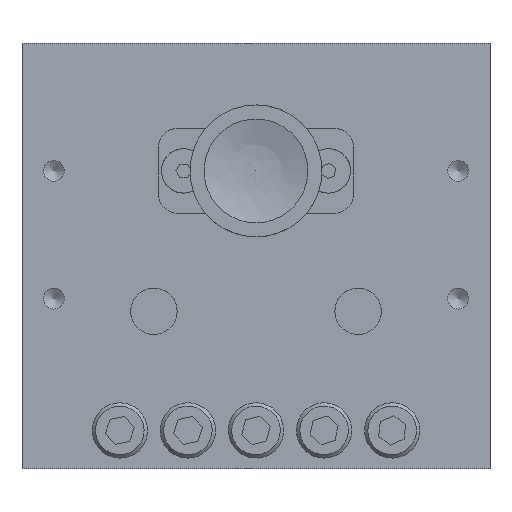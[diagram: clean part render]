
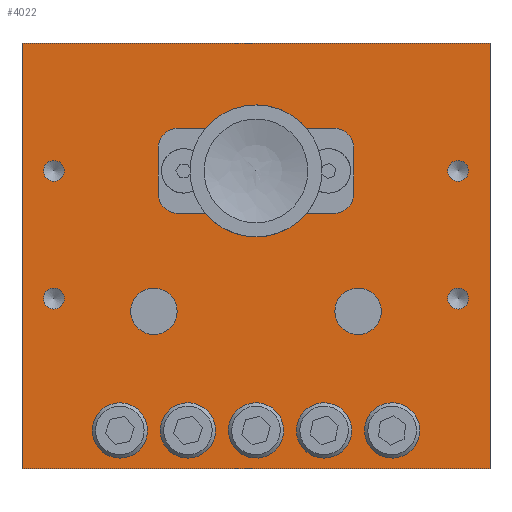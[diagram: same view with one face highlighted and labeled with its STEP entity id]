
A CAD part, front view. The second image highlights one B-rep face of the part: STEP entity #4022.
In plain terms, the highlighted planar face has unit normal (0, -1, 0).
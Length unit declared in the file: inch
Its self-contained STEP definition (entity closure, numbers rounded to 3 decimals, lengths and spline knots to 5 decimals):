
#117=LINE('',#6119,#385);
#124=LINE('',#6208,#392);
#127=LINE('',#6213,#395);
#129=LINE('',#6216,#397);
#385=VECTOR('',#4969,0.3937);
#392=VECTOR('',#5078,0.3937);
#395=VECTOR('',#5083,0.3937);
#397=VECTOR('',#5087,0.3937);
#777=FACE_BOUND('',#1323,.T.);
#778=FACE_BOUND('',#1324,.T.);
#779=FACE_BOUND('',#1325,.T.);
#780=FACE_BOUND('',#1326,.T.);
#781=FACE_BOUND('',#1327,.T.);
#782=FACE_BOUND('',#1328,.T.);
#783=FACE_BOUND('',#1329,.T.);
#784=FACE_BOUND('',#1330,.T.);
#785=FACE_BOUND('',#1331,.T.);
#786=FACE_BOUND('',#1332,.T.);
#787=FACE_BOUND('',#1333,.T.);
#788=FACE_BOUND('',#1334,.T.);
#789=FACE_BOUND('',#1335,.T.);
#790=FACE_BOUND('',#1336,.T.);
#964=FACE_OUTER_BOUND('',#1322,.T.);
#1322=EDGE_LOOP('',(#2862,#2863,#2864,#2865));
#1323=EDGE_LOOP('',(#2866));
#1324=EDGE_LOOP('',(#2867));
#1325=EDGE_LOOP('',(#2868));
#1326=EDGE_LOOP('',(#2869));
#1327=EDGE_LOOP('',(#2870));
#1328=EDGE_LOOP('',(#2871));
#1329=EDGE_LOOP('',(#2872));
#1330=EDGE_LOOP('',(#2873));
#1331=EDGE_LOOP('',(#2874));
#1332=EDGE_LOOP('',(#2875));
#1333=EDGE_LOOP('',(#2876));
#1334=EDGE_LOOP('',(#2877));
#1335=EDGE_LOOP('',(#2878));
#1336=EDGE_LOOP('',(#2879));
#1660=CIRCLE('',#4340,0.0725);
#1662=CIRCLE('',#4344,0.0725);
#1666=CIRCLE('',#4351,0.2149);
#1672=CIRCLE('',#4368,0.13616);
#1674=CIRCLE('',#4371,0.13616);
#1676=CIRCLE('',#4374,0.13616);
#1678=CIRCLE('',#4377,0.13616);
#1680=CIRCLE('',#4380,0.13616);
#1682=CIRCLE('',#4384,0.09679);
#1684=CIRCLE('',#4388,0.09679);
#1686=CIRCLE('',#4392,0.09679);
#1688=CIRCLE('',#4396,0.09679);
#1692=CIRCLE('',#4403,0.2149);
#1694=CIRCLE('',#4406,0.2372);
#1857=VERTEX_POINT('',#6059);
#1859=VERTEX_POINT('',#6065);
#1863=VERTEX_POINT('',#6076);
#1878=VERTEX_POINT('',#6116);
#1879=VERTEX_POINT('',#6118);
#1884=VERTEX_POINT('',#6134);
#1886=VERTEX_POINT('',#6139);
#1888=VERTEX_POINT('',#6144);
#1890=VERTEX_POINT('',#6149);
#1892=VERTEX_POINT('',#6154);
#1894=VERTEX_POINT('',#6160);
#1896=VERTEX_POINT('',#6166);
#1898=VERTEX_POINT('',#6172);
#1900=VERTEX_POINT('',#6178);
#1904=VERTEX_POINT('',#6189);
#1906=VERTEX_POINT('',#6194);
#1909=VERTEX_POINT('',#6205);
#1910=VERTEX_POINT('',#6207);
#2224=EDGE_CURVE('',#1857,#1857,#1660,.T.);
#2226=EDGE_CURVE('',#1859,#1859,#1662,.T.);
#2230=EDGE_CURVE('',#1863,#1863,#1666,.T.);
#2250=EDGE_CURVE('',#1879,#1878,#117,.T.);
#2256=EDGE_CURVE('',#1884,#1884,#1672,.T.);
#2258=EDGE_CURVE('',#1886,#1886,#1674,.T.);
#2260=EDGE_CURVE('',#1888,#1888,#1676,.T.);
#2262=EDGE_CURVE('',#1890,#1890,#1678,.T.);
#2264=EDGE_CURVE('',#1892,#1892,#1680,.T.);
#2266=EDGE_CURVE('',#1894,#1894,#1682,.T.);
#2268=EDGE_CURVE('',#1896,#1896,#1684,.T.);
#2270=EDGE_CURVE('',#1898,#1898,#1686,.T.);
#2272=EDGE_CURVE('',#1900,#1900,#1688,.T.);
#2276=EDGE_CURVE('',#1904,#1904,#1692,.T.);
#2278=EDGE_CURVE('',#1906,#1906,#1694,.T.);
#2284=EDGE_CURVE('',#1910,#1909,#124,.T.);
#2287=EDGE_CURVE('',#1909,#1879,#127,.T.);
#2289=EDGE_CURVE('',#1878,#1910,#129,.T.);
#2862=ORIENTED_EDGE('',*,*,#2250,.T.);
#2863=ORIENTED_EDGE('',*,*,#2289,.T.);
#2864=ORIENTED_EDGE('',*,*,#2284,.T.);
#2865=ORIENTED_EDGE('',*,*,#2287,.T.);
#2866=ORIENTED_EDGE('',*,*,#2224,.T.);
#2867=ORIENTED_EDGE('',*,*,#2226,.T.);
#2868=ORIENTED_EDGE('',*,*,#2230,.T.);
#2869=ORIENTED_EDGE('',*,*,#2256,.T.);
#2870=ORIENTED_EDGE('',*,*,#2258,.T.);
#2871=ORIENTED_EDGE('',*,*,#2260,.T.);
#2872=ORIENTED_EDGE('',*,*,#2262,.T.);
#2873=ORIENTED_EDGE('',*,*,#2264,.T.);
#2874=ORIENTED_EDGE('',*,*,#2266,.T.);
#2875=ORIENTED_EDGE('',*,*,#2268,.T.);
#2876=ORIENTED_EDGE('',*,*,#2270,.T.);
#2877=ORIENTED_EDGE('',*,*,#2272,.T.);
#2878=ORIENTED_EDGE('',*,*,#2276,.T.);
#2879=ORIENTED_EDGE('',*,*,#2278,.T.);
#3535=PLANE('',#4413);
#4022=ADVANCED_FACE('',(#964,#777,#778,#779,#780,#781,#782,#783,#784,#785,
#786,#787,#788,#789,#790),#3535,.T.);
#4340=AXIS2_PLACEMENT_3D('',#6060,#4913,#4914);
#4344=AXIS2_PLACEMENT_3D('',#6066,#4921,#4922);
#4351=AXIS2_PLACEMENT_3D('',#6077,#4935,#4936);
#4368=AXIS2_PLACEMENT_3D('',#6135,#4989,#4990);
#4371=AXIS2_PLACEMENT_3D('',#6140,#4995,#4996);
#4374=AXIS2_PLACEMENT_3D('',#6145,#5001,#5002);
#4377=AXIS2_PLACEMENT_3D('',#6150,#5007,#5008);
#4380=AXIS2_PLACEMENT_3D('',#6155,#5013,#5014);
#4384=AXIS2_PLACEMENT_3D('',#6161,#5021,#5022);
#4388=AXIS2_PLACEMENT_3D('',#6167,#5029,#5030);
#4392=AXIS2_PLACEMENT_3D('',#6173,#5037,#5038);
#4396=AXIS2_PLACEMENT_3D('',#6179,#5045,#5046);
#4403=AXIS2_PLACEMENT_3D('',#6190,#5059,#5060);
#4406=AXIS2_PLACEMENT_3D('',#6195,#5065,#5066);
#4413=AXIS2_PLACEMENT_3D('',#6218,#5090,#5091);
#4913=DIRECTION('center_axis',(0.,1.,0.));
#4914=DIRECTION('ref_axis',(1.,0.,0.));
#4921=DIRECTION('center_axis',(0.,1.,0.));
#4922=DIRECTION('ref_axis',(1.,0.,0.));
#4935=DIRECTION('center_axis',(0.,1.,0.));
#4936=DIRECTION('ref_axis',(1.,0.,0.));
#4969=DIRECTION('',(-1.,0.,0.));
#4989=DIRECTION('center_axis',(0.,1.,0.));
#4990=DIRECTION('ref_axis',(1.,0.,0.));
#4995=DIRECTION('center_axis',(0.,1.,0.));
#4996=DIRECTION('ref_axis',(1.,0.,0.));
#5001=DIRECTION('center_axis',(0.,1.,0.));
#5002=DIRECTION('ref_axis',(1.,0.,0.));
#5007=DIRECTION('center_axis',(0.,1.,0.));
#5008=DIRECTION('ref_axis',(1.,0.,0.));
#5013=DIRECTION('center_axis',(0.,1.,0.));
#5014=DIRECTION('ref_axis',(1.,0.,0.));
#5021=DIRECTION('center_axis',(0.,1.,0.));
#5022=DIRECTION('ref_axis',(1.,0.,0.));
#5029=DIRECTION('center_axis',(0.,1.,0.));
#5030=DIRECTION('ref_axis',(1.,0.,0.));
#5037=DIRECTION('center_axis',(0.,1.,0.));
#5038=DIRECTION('ref_axis',(1.,0.,0.));
#5045=DIRECTION('center_axis',(0.,1.,0.));
#5046=DIRECTION('ref_axis',(1.,0.,0.));
#5059=DIRECTION('center_axis',(0.,1.,0.));
#5060=DIRECTION('ref_axis',(1.,0.,0.));
#5065=DIRECTION('center_axis',(0.,1.,0.));
#5066=DIRECTION('ref_axis',(1.,0.,0.));
#5078=DIRECTION('',(1.,0.,0.));
#5083=DIRECTION('',(0.,0.,1.));
#5087=DIRECTION('',(0.,0.,-1.));
#5090=DIRECTION('center_axis',(0.,-1.,0.));
#5091=DIRECTION('ref_axis',(1.,0.,0.));
#6059=CARTESIAN_POINT('',(-0.59679,-1.20079,0.7874));
#6060=CARTESIAN_POINT('Origin',(-0.66929,-1.20079,0.7874));
#6065=CARTESIAN_POINT('',(0.74179,-1.20079,0.7874));
#6066=CARTESIAN_POINT('Origin',(0.66929,-1.20079,0.7874));
#6076=CARTESIAN_POINT('',(1.15978,-1.20079,-0.51181));
#6077=CARTESIAN_POINT('Origin',(0.94488,-1.20079,-0.51181));
#6116=CARTESIAN_POINT('',(-2.16535,-1.20079,1.9685));
#6118=CARTESIAN_POINT('',(2.16535,-1.20079,1.9685));
#6119=CARTESIAN_POINT('',(-2.16535,-1.20079,1.9685));
#6134=CARTESIAN_POINT('',(1.396,-1.20079,-1.61417));
#6135=CARTESIAN_POINT('Origin',(1.25984,-1.20079,-1.61417));
#6139=CARTESIAN_POINT('',(0.76608,-1.20079,-1.61417));
#6140=CARTESIAN_POINT('Origin',(0.62992,-1.20079,-1.61417));
#6144=CARTESIAN_POINT('',(0.13616,-1.20079,-1.61417));
#6145=CARTESIAN_POINT('Origin',(0.,-1.20079,-1.61417));
#6149=CARTESIAN_POINT('',(-0.49376,-1.20079,-1.61417));
#6150=CARTESIAN_POINT('Origin',(-0.62992,-1.20079,-1.61417));
#6154=CARTESIAN_POINT('',(-1.12368,-1.20079,-1.61417));
#6155=CARTESIAN_POINT('Origin',(-1.25984,-1.20079,-1.61417));
#6160=CARTESIAN_POINT('',(1.96687,-1.20079,0.7874));
#6161=CARTESIAN_POINT('Origin',(1.87008,-1.20079,0.7874));
#6166=CARTESIAN_POINT('',(-1.77329,-1.20079,0.7874));
#6167=CARTESIAN_POINT('Origin',(-1.87008,-1.20079,0.7874));
#6172=CARTESIAN_POINT('',(-1.77329,-1.20079,-0.3937));
#6173=CARTESIAN_POINT('Origin',(-1.87008,-1.20079,-0.3937));
#6178=CARTESIAN_POINT('',(1.96687,-1.20079,-0.3937));
#6179=CARTESIAN_POINT('Origin',(1.87008,-1.20079,-0.3937));
#6189=CARTESIAN_POINT('',(-0.72998,-1.20079,-0.51181));
#6190=CARTESIAN_POINT('Origin',(-0.94488,-1.20079,-0.51181));
#6194=CARTESIAN_POINT('',(0.2372,-1.20079,0.7874));
#6195=CARTESIAN_POINT('Origin',(0.,-1.20079,0.7874));
#6205=CARTESIAN_POINT('',(2.16535,-1.20079,-1.9685));
#6207=CARTESIAN_POINT('',(-2.16535,-1.20079,-1.9685));
#6208=CARTESIAN_POINT('',(2.16535,-1.20079,-1.9685));
#6213=CARTESIAN_POINT('',(2.16535,-1.20079,1.9685));
#6216=CARTESIAN_POINT('',(-2.16535,-1.20079,-1.9685));
#6218=CARTESIAN_POINT('Origin',(0.,-1.20079,0.));
